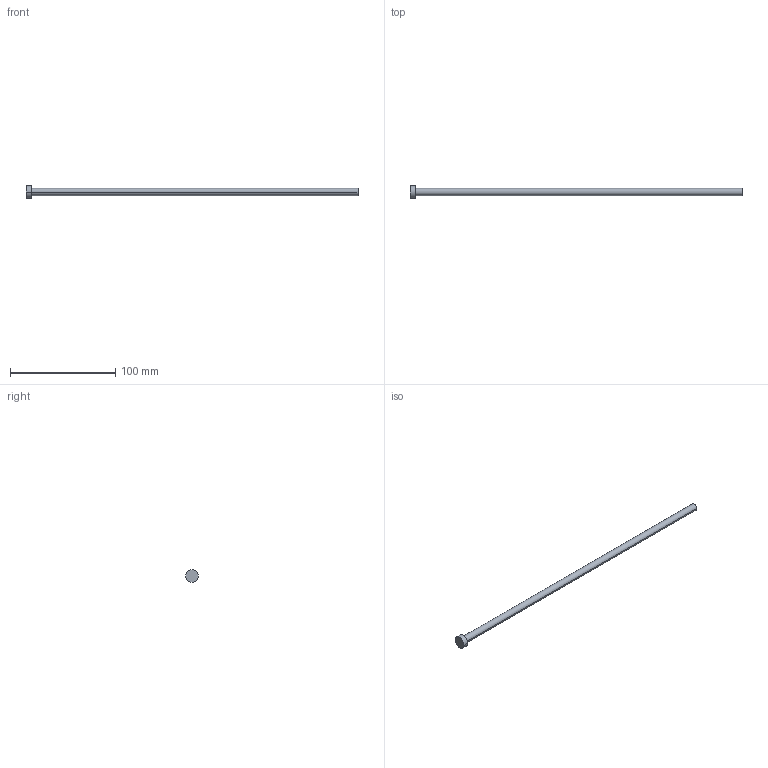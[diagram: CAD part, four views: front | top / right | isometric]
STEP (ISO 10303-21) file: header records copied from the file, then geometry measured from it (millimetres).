
FILE_DESCRIPTION (( 'STEP AP214' ), '1' );
FILE_NAME ('A-7x315.STEP', '2020-05-29T15:47:11', ( 'August' ), ( '' ), 'SwSTEP 2.0', 'SolidWorks 2018', '' );
FILE_SCHEMA (( 'AUTOMOTIVE_DESIGN' ));
Length unit declared in the file: millimetre
Products named in the file (1): A-7x315
Bounding box: 315 x 12 x 12 mm (x, y, z)
Volume: 12496.9 mm3; surface area: 7227.3 mm2
Topology: 1 solids, 1 shells, 9 faces, 16 edges, 10 vertices
Faces by surface type: cylinder 4, plane 3, torus 2
Entity records: 260 total; most frequent: DIRECTION 48, CARTESIAN_POINT 36, ORIENTED_EDGE 32, AXIS2_PLACEMENT_3D 22, EDGE_CURVE 16, CIRCLE 12, VERTEX_POINT 10, EDGE_LOOP 10
